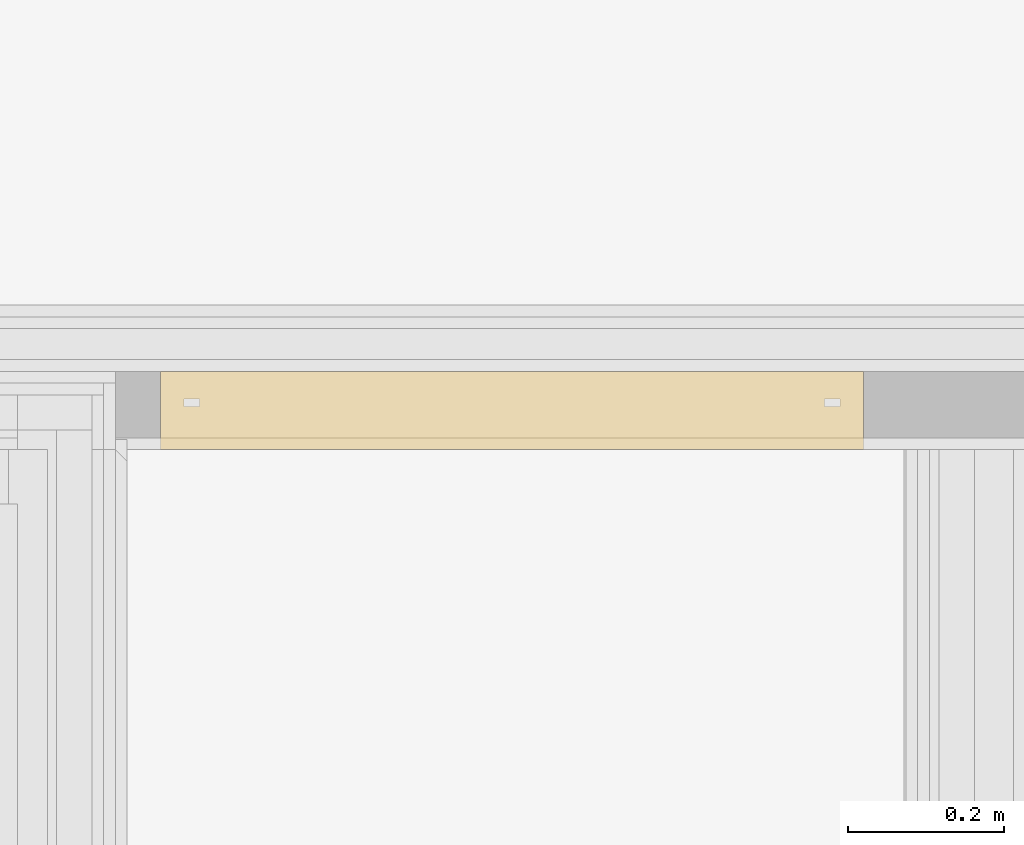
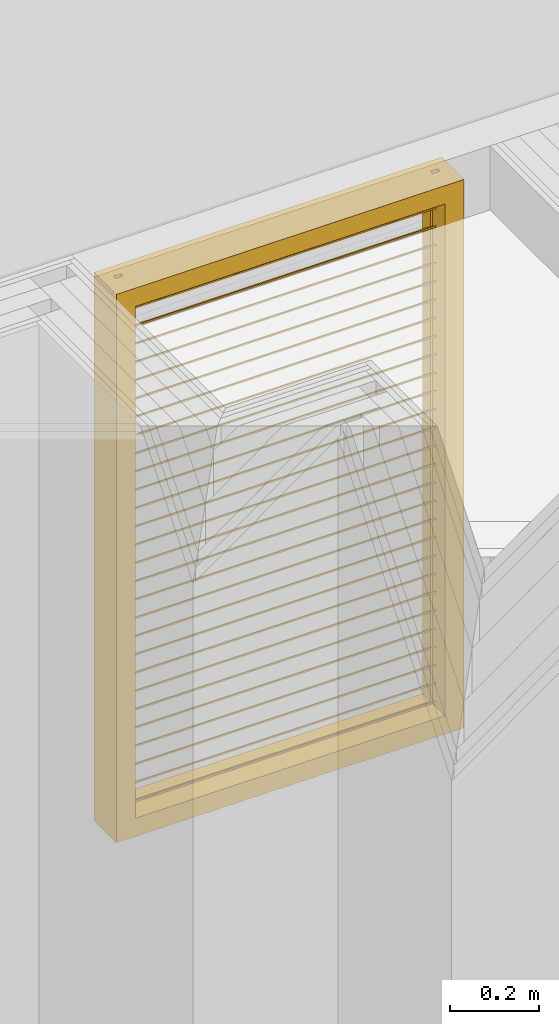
# One storey, part 105 of 169: 1 curtain wall.
"""IFC2X3 building model written with IfcOpenShell, lengths in metres."""

from ifc_helpers import new_model, entity, si_unit, converted_unit, derived_unit, money_unit, direction, frame, origin_with_axes, place, context, subcontext, project, spatial, open_shell, surface_model, material, type_object, element, save


model = new_model("IFC2X3")

# Units and contexts
model_context = context("Model", 3, precision=1e-05, world=origin_with_axes(), true_north=direction((0.0, 1.0)))
body_context = subcontext(model_context, "Body", "Model", "MODEL_VIEW", scale=1.0)
ifc_project = project(units=[si_unit("LENGTHUNIT", "METRE"), si_unit("AREAUNIT", "SQUARE_METRE"), si_unit("VOLUMEUNIT", "CUBIC_METRE"), si_unit("ABSORBEDDOSEUNIT", "GRAY"), si_unit("AMOUNTOFSUBSTANCEUNIT", "MOLE"), si_unit("DOSEEQUIVALENTUNIT", "SIEVERT"), si_unit("ELECTRICCAPACITANCEUNIT", "FARAD"), si_unit("ELECTRICCHARGEUNIT", "COULOMB"), si_unit("ELECTRICCONDUCTANCEUNIT", "SIEMENS"), si_unit("ELECTRICCURRENTUNIT", "AMPERE"), si_unit("ELECTRICRESISTANCEUNIT", "OHM"), si_unit("ELECTRICVOLTAGEUNIT", "VOLT"), si_unit("ENERGYUNIT", "JOULE"), si_unit("FORCEUNIT", "NEWTON"), si_unit("FREQUENCYUNIT", "HERTZ"), si_unit("ILLUMINANCEUNIT", "LUX"), si_unit("INDUCTANCEUNIT", "HENRY"), si_unit("LUMINOUSFLUXUNIT", "LUMEN"), si_unit("LUMINOUSINTENSITYUNIT", "CANDELA"), si_unit("MAGNETICFLUXDENSITYUNIT", "TESLA"), si_unit("MAGNETICFLUXUNIT", "WEBER"), si_unit("MASSUNIT", "GRAM"), converted_unit("PLANEANGLEUNIT", "degree", entity("IfcReal", 0.0174532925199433), si_unit("PLANEANGLEUNIT", "RADIAN"), dimensions=[0, 0, 0, 0, 0, 0, 0]), si_unit("POWERUNIT", "WATT"), si_unit("PRESSUREUNIT", "PASCAL"), si_unit("RADIOACTIVITYUNIT", "BECQUEREL"), si_unit("SOLIDANGLEUNIT", "STERADIAN"), si_unit("THERMODYNAMICTEMPERATUREUNIT", "KELVIN"), si_unit("TIMEUNIT", "SECOND"), derived_unit("ACCELERATIONUNIT", [(si_unit("LENGTHUNIT", "METRE"), 1), (si_unit("TIMEUNIT", "SECOND"), -2)]), derived_unit("ANGULARVELOCITYUNIT", [(converted_unit("PLANEANGLEUNIT", "degree", entity("IfcReal", 0.0174532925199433), si_unit("PLANEANGLEUNIT", "RADIAN"), dimensions=[0, 0, 0, 0, 0, 0, 0]), 1), (si_unit("TIMEUNIT", "SECOND"), -1)]), derived_unit("CURVATUREUNIT", [(converted_unit("PLANEANGLEUNIT", "degree", entity("IfcReal", 0.0174532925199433), si_unit("PLANEANGLEUNIT", "RADIAN"), dimensions=[0, 0, 0, 0, 0, 0, 0]), 1), (si_unit("LENGTHUNIT", "METRE"), -1)]), derived_unit("DYNAMICVISCOSITYUNIT", [(si_unit("PRESSUREUNIT", "PASCAL"), 1), (si_unit("TIMEUNIT", "SECOND"), 1)]), derived_unit("HEATFLUXDENSITYUNIT", [(si_unit("POWERUNIT", "WATT"), 1), (si_unit("LENGTHUNIT", "METRE"), -2)]), derived_unit("HEATINGVALUEUNIT", [(si_unit("ENERGYUNIT", "JOULE"), 1), (si_unit("MASSUNIT", "GRAM"), -1)]), derived_unit("INTEGERCOUNTRATEUNIT", [(si_unit("TIMEUNIT", "SECOND"), -1)]), derived_unit("IONCONCENTRATIONUNIT", [(si_unit("MASSUNIT", "GRAM"), 1), (si_unit("VOLUMEUNIT", "CUBIC_METRE"), -1)]), derived_unit("ISOTHERMALMOISTURECAPACITYUNIT", [(si_unit("VOLUMEUNIT", "CUBIC_METRE"), 1), (si_unit("MASSUNIT", "GRAM"), -1)]), derived_unit("KINEMATICVISCOSITYUNIT", [(si_unit("AREAUNIT", "SQUARE_METRE"), 1), (si_unit("TIMEUNIT", "SECOND"), -1)]), derived_unit("LINEARFORCEUNIT", [(si_unit("FORCEUNIT", "NEWTON"), 1), (si_unit("LENGTHUNIT", "METRE"), -1)]), derived_unit("LINEARMOMENTUNIT", [(si_unit("FORCEUNIT", "NEWTON"), 1), (si_unit("LENGTHUNIT", "METRE"), -1)]), derived_unit("LINEARSTIFFNESSUNIT", [(si_unit("FORCEUNIT", "NEWTON"), 1), (si_unit("LENGTHUNIT", "METRE"), -1)]), derived_unit("LINEARVELOCITYUNIT", [(si_unit("LENGTHUNIT", "METRE"), 1), (si_unit("TIMEUNIT", "SECOND"), -1)]), derived_unit("LUMINOUSINTENSITYDISTRIBUTIONUNIT", [(si_unit("LUMINOUSINTENSITYUNIT", "CANDELA"), 1), (si_unit("LUMINOUSFLUXUNIT", "LUMEN"), -1)]), derived_unit("MASSDENSITYUNIT", [(si_unit("MASSUNIT", "GRAM"), 1), (si_unit("VOLUMEUNIT", "CUBIC_METRE"), -1)]), derived_unit("MASSFLOWRATEUNIT", [(si_unit("MASSUNIT", "GRAM"), 1), (si_unit("TIMEUNIT", "SECOND"), -1)]), derived_unit("MASSPERLENGTHUNIT", [(si_unit("MASSUNIT", "GRAM"), 1), (si_unit("LENGTHUNIT", "METRE"), -1)]), derived_unit("MODULUSOFELASTICITYUNIT", [(si_unit("FORCEUNIT", "NEWTON"), 1), (si_unit("AREAUNIT", "SQUARE_METRE"), -1)]), derived_unit("MODULUSOFLINEARSUBGRADEREACTIONUNIT", [(si_unit("FORCEUNIT", "NEWTON"), 1), (si_unit("LENGTHUNIT", "METRE"), -2)]), derived_unit("MODULUSOFROTATIONALSUBGRADEREACTIONUNIT", [(si_unit("FORCEUNIT", "NEWTON"), 1), (si_unit("LENGTHUNIT", "METRE"), 1)]), derived_unit("MODULUSOFSUBGRADEREACTIONUNIT", [(si_unit("FORCEUNIT", "NEWTON"), 1), (si_unit("VOLUMEUNIT", "CUBIC_METRE"), -1)]), derived_unit("MOISTUREDIFFUSIVITYUNIT", [(si_unit("VOLUMEUNIT", "CUBIC_METRE"), 1), (si_unit("TIMEUNIT", "SECOND"), -1)]), derived_unit("MOLECULARWEIGHTUNIT", [(si_unit("MASSUNIT", "GRAM"), 1), (si_unit("AMOUNTOFSUBSTANCEUNIT", "MOLE"), -1)]), derived_unit("PLANARFORCEUNIT", [(si_unit("FORCEUNIT", "NEWTON"), 1), (si_unit("LENGTHUNIT", "METRE"), -2)]), derived_unit("ROTATIONALFREQUENCYUNIT", [(si_unit("TIMEUNIT", "SECOND"), -1)]), derived_unit("ROTATIONALMASSUNIT", [(si_unit("MASSUNIT", "GRAM"), 1), (si_unit("LENGTHUNIT", "METRE"), 2)]), derived_unit("ROTATIONALSTIFFNESSUNIT", [(si_unit("FORCEUNIT", "NEWTON"), 1), (si_unit("LENGTHUNIT", "METRE"), 1), (converted_unit("PLANEANGLEUNIT", "degree", entity("IfcReal", 0.0174532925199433), si_unit("PLANEANGLEUNIT", "RADIAN"), dimensions=[0, 0, 0, 0, 0, 0, 0]), -1)]), derived_unit("SECTIONAREAINTEGRALUNIT", [(si_unit("LENGTHUNIT", "METRE"), 5)]), derived_unit("SECTIONMODULUSUNIT", [(si_unit("LENGTHUNIT", "METRE"), 3)]), derived_unit("SHEARMODULUSUNIT", [(si_unit("FORCEUNIT", "NEWTON"), 1), (si_unit("AREAUNIT", "SQUARE_METRE"), -1)]), derived_unit("SOUNDPOWERUNIT", [(si_unit("ENERGYUNIT", "JOULE"), 1), (si_unit("TIMEUNIT", "SECOND"), -1)]), derived_unit("SPECIFICHEATCAPACITYUNIT", [(si_unit("FORCEUNIT", "NEWTON"), 1), (si_unit("MASSUNIT", "GRAM"), -1), (si_unit("THERMODYNAMICTEMPERATUREUNIT", "KELVIN"), -1)]), derived_unit("TEMPERATUREGRADIENTUNIT", [(si_unit("THERMODYNAMICTEMPERATUREUNIT", "KELVIN"), 1), (si_unit("LENGTHUNIT", "METRE"), -1)]), derived_unit("THERMALADMITTANCEUNIT", [(si_unit("POWERUNIT", "WATT"), 1), (si_unit("AREAUNIT", "SQUARE_METRE"), -1), (si_unit("THERMODYNAMICTEMPERATUREUNIT", "KELVIN"), -1)]), derived_unit("THERMALCONDUCTANCEUNIT", [(si_unit("POWERUNIT", "WATT"), 1), (si_unit("LENGTHUNIT", "METRE"), -1), (si_unit("THERMODYNAMICTEMPERATUREUNIT", "KELVIN"), -1)]), derived_unit("THERMALEXPANSIONCOEFFICIENTUNIT", [(si_unit("THERMODYNAMICTEMPERATUREUNIT", "KELVIN"), -1)]), derived_unit("THERMALRESISTANCEUNIT", [(si_unit("AREAUNIT", "SQUARE_METRE"), 1), (si_unit("POWERUNIT", "WATT"), -1)]), derived_unit("THERMALTRANSMITTANCEUNIT", [(si_unit("POWERUNIT", "WATT"), 1), (si_unit("AREAUNIT", "SQUARE_METRE"), -1), (si_unit("THERMODYNAMICTEMPERATUREUNIT", "KELVIN"), -1)]), derived_unit("TORQUEUNIT", [(si_unit("FORCEUNIT", "NEWTON"), 1), (si_unit("LENGTHUNIT", "METRE"), 1)]), derived_unit("VAPORPERMEABILITYUNIT", [(si_unit("MASSUNIT", "GRAM"), 1), (si_unit("TIMEUNIT", "SECOND"), -1)]), derived_unit("VOLUMETRICFLOWRATEUNIT", [(si_unit("VOLUMEUNIT", "CUBIC_METRE"), 1), (si_unit("TIMEUNIT", "SECOND"), -1)]), derived_unit("WARPINGCONSTANTUNIT", [(si_unit("LENGTHUNIT", "METRE"), 6)]), derived_unit("WARPINGMOMENTUNIT", [(si_unit("FORCEUNIT", "NEWTON"), 1), (si_unit("LENGTHUNIT", "METRE"), 2)]), money_unit("GBP")], contexts=[model_context])

# Site, building, storey
site_placement = place(None, origin_with_axes())
site = spatial("IfcSite", under=ifc_project, at=site_placement, Name="Site", CompositionType="ELEMENT")
building_placement = place(site_placement, origin_with_axes())
building = spatial("IfcBuilding", under=site, at=building_placement, Name="Building01", CompositionType="ELEMENT")
storey_placement = place(building_placement, frame((0.0, 0.0, 5.15), z_axis=(0.0, 0.0, 1.0), x_axis=(1.0, 0.0, 0.0)))
storey = spatial("IfcBuildingStorey", under=building, at=storey_placement, Name="1F", CompositionType="ELEMENT", Elevation=5.15)

# Curtain wall
ifc_material = material(Name="A-CurtainWall_Frame")
curtain_wall_type = type_object("IfcCurtainWallType", Name="Generic - Maximum Spacing", PredefinedType="NOTDEFINED")
curtain_wall_placement = place(storey_placement, frame((0.0, 0.0, -5.15), z_axis=(0.0, 0.0, 1.0), x_axis=(1.0, 0.0, 0.0)))
element("IfcCurtainWall", 1, at=curtain_wall_placement, inside=storey, type_object=curtain_wall_type, material=ifc_material, Name="Generic - Maximum Spacing", ObjectType="Generic - Maximum Spacing", context=body_context, shape_type="SurfaceModel", body=[
    surface_model("IfcShellBasedSurfaceModel", [(12.483, 5.05953, 15.913684), (12.483, 5.061392, 15.916216), (12.483, 5.02047, 15.946316), (12.483, 5.018608, 15.943784), (13.283, 5.05953, 15.913684), (13.283, 5.018608, 15.943784), (13.283, 5.02047, 15.946316), (13.283, 5.061392, 15.916216), (12.483, 5.061392, 15.966216), (12.483, 5.02047, 15.996316), (12.483, 5.018608, 15.993784), (12.483, 5.05953, 15.963684), (13.283, 5.05953, 15.963684), (13.283, 5.018608, 15.993784), (13.283, 5.02047, 15.996316), (13.283, 5.061392, 15.966216), (12.483, 5.061392, 16.016216), (12.483, 5.02047, 16.046316), (12.483, 5.018608, 16.043784), (12.483, 5.05953, 16.013684), (13.283, 5.05953, 16.013684), (13.283, 5.018608, 16.043784), (13.283, 5.02047, 16.046316), (13.283, 5.061392, 16.016216), (12.483, 5.061392, 16.066216), (12.483, 5.02047, 16.096316), (12.483, 5.018608, 16.093784), (12.483, 5.05953, 16.063684), (13.283, 5.05953, 16.063684), (13.283, 5.018608, 16.093784), (13.283, 5.02047, 16.096316), (13.283, 5.061392, 16.066216), (12.483, 5.061392, 16.116216), (12.483, 5.02047, 16.146316), (12.483, 5.018608, 16.143784), (12.483, 5.05953, 16.113684), (13.283, 5.05953, 16.113684), (13.283, 5.018608, 16.143784), (13.283, 5.02047, 16.146316), (13.283, 5.061392, 16.116216), (12.483, 5.061392, 16.166216), (12.483, 5.02047, 16.196316), (12.483, 5.018608, 16.193784), (12.483, 5.05953, 16.163684), (13.283, 5.05953, 16.163684), (13.283, 5.018608, 16.193784), (13.283, 5.02047, 16.196316), (13.283, 5.061392, 16.166216), (12.483, 5.061392, 16.216216), (12.483, 5.02047, 16.246316), (12.483, 5.018608, 16.243784), (12.483, 5.05953, 16.213684), (13.283, 5.05953, 16.213684), (13.283, 5.018608, 16.243784), (13.283, 5.02047, 16.246316), (13.283, 5.061392, 16.216216), (12.483, 5.061392, 16.266216), (12.483, 5.02047, 16.296316), (12.483, 5.018608, 16.293784), (12.483, 5.05953, 16.263684), (13.283, 5.05953, 16.263684), (13.283, 5.018608, 16.293784), (13.283, 5.02047, 16.296316), (13.283, 5.061392, 16.266216), (12.483, 5.061392, 16.316216), (12.483, 5.02047, 16.346316), (12.483, 5.018608, 16.343784), (12.483, 5.05953, 16.313684), (13.283, 5.05953, 16.313684), (13.283, 5.018608, 16.343784), (13.283, 5.02047, 16.346316), (13.283, 5.061392, 16.316216), (12.483, 5.061392, 16.366216), (12.483, 5.02047, 16.396316), (12.483, 5.018608, 16.393784), (12.483, 5.05953, 16.363684), (13.283, 5.05953, 16.363684), (13.283, 5.018608, 16.393784), (13.283, 5.02047, 16.396316), (13.283, 5.061392, 16.366216), (12.483, 5.061392, 16.416216), (12.483, 5.02047, 16.446316), (12.483, 5.018608, 16.443784), (12.483, 5.05953, 16.413684), (13.283, 5.05953, 16.413684), (13.283, 5.018608, 16.443784), (13.283, 5.02047, 16.446316), (13.283, 5.061392, 16.416216), (12.483, 5.061392, 16.466216), (12.483, 5.02047, 16.496316), (12.483, 5.018608, 16.493784), (12.483, 5.05953, 16.463684), (13.283, 5.05953, 16.463684), (13.283, 5.018608, 16.493784), (13.283, 5.02047, 16.496316), (13.283, 5.061392, 16.466216), (12.483, 5.061392, 16.516216), (12.483, 5.02047, 16.546316), (12.483, 5.018608, 16.543784), (12.483, 5.05953, 16.513684), (13.283, 5.05953, 16.513684), (13.283, 5.018608, 16.543784), (13.283, 5.02047, 16.546316), (13.283, 5.061392, 16.516216), (12.483, 5.061392, 16.566216), (12.483, 5.02047, 16.596316), (12.483, 5.018608, 16.593784), (12.483, 5.05953, 16.563684), (13.283, 5.05953, 16.563684), (13.283, 5.018608, 16.593784), (13.283, 5.02047, 16.596316), (13.283, 5.061392, 16.566216), (12.483, 5.061392, 16.616216), (12.483, 5.02047, 16.646316), (12.483, 5.018608, 16.643784), (12.483, 5.05953, 16.613684), (13.283, 5.05953, 16.613684), (13.283, 5.018608, 16.643784), (13.283, 5.02047, 16.646316), (13.283, 5.061392, 16.616216), (12.483, 5.061392, 16.666216), (12.483, 5.02047, 16.696316), (12.483, 5.018608, 16.693784), (12.483, 5.05953, 16.663684), (13.283, 5.05953, 16.663684), (13.283, 5.018608, 16.693784), (13.283, 5.02047, 16.696316), (13.283, 5.061392, 16.666216), (12.483, 5.061392, 16.716216), (12.483, 5.02047, 16.746316), (12.483, 5.018608, 16.743784), (12.483, 5.05953, 16.713684), (13.283, 5.05953, 16.713684), (13.283, 5.018608, 16.743784), (13.283, 5.02047, 16.746316), (13.283, 5.061392, 16.716216), (12.483, 5.061392, 16.766216), (12.483, 5.02047, 16.796316), (12.483, 5.018608, 16.793784), (12.483, 5.05953, 16.763684), (13.283, 5.05953, 16.763684), (13.283, 5.018608, 16.793784), (13.283, 5.02047, 16.796316), (13.283, 5.061392, 16.766216), (12.483, 5.061392, 16.816216), (12.483, 5.02047, 16.846316), (12.483, 5.018608, 16.843784), (12.483, 5.05953, 16.813684), (13.283, 5.05953, 16.813684), (13.283, 5.018608, 16.843784), (13.283, 5.02047, 16.846316), (13.283, 5.061392, 16.816216), (12.483, 5.061392, 16.866216), (12.483, 5.02047, 16.896316), (12.483, 5.018608, 16.893784), (12.483, 5.05953, 16.863684), (13.283, 5.05953, 16.863684), (13.283, 5.018608, 16.893784), (13.283, 5.02047, 16.896316), (13.283, 5.061392, 16.866216), (12.483, 5.061392, 16.916216), (12.483, 5.02047, 16.946316), (12.483, 5.018608, 16.943784), (12.483, 5.05953, 16.913684), (13.283, 5.05953, 16.913684), (13.283, 5.018608, 16.943784), (13.283, 5.02047, 16.946316), (13.283, 5.061392, 16.916216), (12.483, 5.061392, 16.966216), (12.483, 5.02047, 16.996316), (12.483, 5.018608, 16.993784), (12.483, 5.05953, 16.963684), (13.283, 5.05953, 16.963684), (13.283, 5.018608, 16.993784), (13.283, 5.02047, 16.996316), (13.283, 5.061392, 16.966216), (12.483, 5.061392, 17.016216), (12.483, 5.02047, 17.046316), (12.483, 5.018608, 17.043784), (12.483, 5.05953, 17.013684), (13.283, 5.05953, 17.013684), (13.283, 5.018608, 17.043784), (13.283, 5.02047, 17.046316), (13.283, 5.061392, 17.016216), (12.483, 5.061392, 17.066216), (12.483, 5.02047, 17.096316), (12.483, 5.018608, 17.093784), (12.483, 5.05953, 17.063684), (13.283, 5.05953, 17.063684), (13.283, 5.018608, 17.093784), (13.283, 5.02047, 17.096316), (13.283, 5.061392, 17.066216), (12.483, 5.061392, 17.116216), (12.483, 5.02047, 17.146316), (12.483, 5.018608, 17.143784), (12.483, 5.05953, 17.113684), (13.283, 5.05953, 17.113684), (13.283, 5.018608, 17.143784), (13.283, 5.02047, 17.146316), (13.283, 5.061392, 17.116216), (12.483, 5.061392, 17.166216), (12.483, 5.02047, 17.196316), (12.483, 5.018608, 17.193784), (12.483, 5.05953, 17.163684), (13.283, 5.05953, 17.163684), (13.283, 5.018608, 17.193784), (13.283, 5.02047, 17.196316), (13.283, 5.061392, 17.166216), (12.483, 5.061392, 17.216216), (12.483, 5.02047, 17.246316), (12.483, 5.018608, 17.243784), (12.483, 5.05953, 17.213684), (13.283, 5.05953, 17.213684), (13.283, 5.018608, 17.243784), (13.283, 5.02047, 17.246316), (13.283, 5.061392, 17.216216), (12.483, 5.061392, 17.266216), (12.483, 5.02047, 17.296316), (12.483, 5.018608, 17.293784), (12.483, 5.05953, 17.263684), (13.283, 5.05953, 17.263684), (13.283, 5.018608, 17.293784), (13.283, 5.02047, 17.296316), (13.283, 5.061392, 17.266216), (12.483, 5.061392, 17.316216), (12.483, 5.02047, 17.346316), (12.483, 5.018608, 17.343784), (12.483, 5.05953, 17.313684), (13.283, 5.05953, 17.313684), (13.283, 5.018608, 17.343784), (13.283, 5.02047, 17.346316), (13.283, 5.061392, 17.316216), (13.283, 5.08, 15.93), (13.283, 5.045, 15.93), (13.283, 5.045, 15.91), (13.283, 5.035, 15.91), (13.283, 5.035, 15.93), (13.283, 4.98, 15.93), (13.283, 4.98, 15.88), (13.283, 5.08, 15.88), (12.483, 5.08, 15.88), (12.483, 5.08, 15.93), (12.483, 5.045, 15.93), (12.483, 5.045, 15.91), (12.483, 5.035, 15.91), (12.483, 5.035, 15.93), (12.483, 4.98, 15.93), (12.483, 4.98, 15.88), (13.333, 5.08, 17.38), (13.283, 5.08, 17.38), (13.283, 5.045, 17.38), (13.303, 5.045, 17.38), (13.303, 5.035, 17.38), (13.283, 5.035, 17.38), (13.283, 4.98, 17.38), (13.333, 4.98, 17.38), (13.333, 4.98, 15.88), (13.333, 5.08, 15.88), (13.283, 5.045, 15.88), (13.303, 5.045, 15.88), (13.303, 5.035, 15.88), (13.283, 5.035, 15.88), (12.483, 5.045, 17.35), (12.483, 5.035, 17.35), (12.483, 5.035, 17.33), (12.483, 4.98, 17.33), (12.483, 4.98, 17.38), (12.483, 5.08, 17.38), (12.483, 5.08, 17.33), (12.483, 5.045, 17.33), (13.283, 5.045, 17.33), (13.283, 5.045, 17.35), (13.283, 5.035, 17.35), (13.283, 5.035, 17.33), (13.283, 4.98, 17.33), (13.283, 5.08, 17.33), (12.433, 5.08, 15.88), (12.483, 5.045, 15.88), (12.463, 5.045, 15.88), (12.463, 5.035, 15.88), (12.483, 5.035, 15.88), (12.433, 4.98, 15.88), (12.433, 4.98, 17.38), (12.433, 5.08, 17.38), (12.483, 5.045, 17.38), (12.463, 5.045, 17.38), (12.463, 5.035, 17.38), (12.483, 5.035, 17.38)], [open_shell([[[0, 1, 2, 3]], [[1, 2, 3, 0]], [[4, 5, 6, 7]], [[1, 0, 4, 7]], [[2, 1, 7, 6]], [[3, 2, 6, 5]], [[4, 0, 3, 5]], [[8, 9, 10, 11]], [[12, 13, 14, 15]], [[8, 11, 12, 15]], [[9, 8, 15, 14]], [[10, 9, 14, 13]], [[12, 11, 10, 13]], [[16, 17, 18, 19]], [[20, 21, 22, 23]], [[16, 19, 20, 23]], [[17, 16, 23, 22]], [[18, 17, 22, 21]], [[20, 19, 18, 21]], [[24, 25, 26, 27]], [[28, 29, 30, 31]], [[24, 27, 28, 31]], [[25, 24, 31, 30]], [[26, 25, 30, 29]], [[28, 27, 26, 29]], [[32, 33, 34, 35]], [[36, 37, 38, 39]], [[32, 35, 36, 39]], [[33, 32, 39, 38]], [[34, 33, 38, 37]], [[36, 35, 34, 37]], [[40, 41, 42, 43]], [[44, 45, 46, 47]], [[40, 43, 44, 47]], [[41, 40, 47, 46]], [[42, 41, 46, 45]], [[44, 43, 42, 45]], [[48, 49, 50, 51]], [[52, 53, 54, 55]], [[48, 51, 52, 55]], [[49, 48, 55, 54]], [[50, 49, 54, 53]], [[52, 51, 50, 53]], [[56, 57, 58, 59]], [[60, 61, 62, 63]], [[56, 59, 60, 63]], [[57, 56, 63, 62]], [[58, 57, 62, 61]], [[60, 59, 58, 61]], [[64, 65, 66, 67]], [[68, 69, 70, 71]], [[64, 67, 68, 71]], [[65, 64, 71, 70]], [[66, 65, 70, 69]], [[68, 67, 66, 69]], [[72, 73, 74, 75]], [[76, 77, 78, 79]], [[72, 75, 76, 79]], [[73, 72, 79, 78]], [[74, 73, 78, 77]], [[76, 75, 74, 77]], [[80, 81, 82, 83]], [[84, 85, 86, 87]], [[80, 83, 84, 87]], [[81, 80, 87, 86]], [[82, 81, 86, 85]], [[84, 83, 82, 85]], [[88, 89, 90, 91]], [[92, 93, 94, 95]], [[88, 91, 92, 95]], [[89, 88, 95, 94]], [[90, 89, 94, 93]], [[92, 91, 90, 93]], [[96, 97, 98, 99]], [[100, 101, 102, 103]], [[96, 99, 100, 103]], [[97, 96, 103, 102]], [[98, 97, 102, 101]], [[100, 99, 98, 101]], [[104, 105, 106, 107]], [[108, 109, 110, 111]], [[104, 107, 108, 111]], [[105, 104, 111, 110]], [[106, 105, 110, 109]], [[108, 107, 106, 109]], [[112, 113, 114, 115]], [[116, 117, 118, 119]], [[112, 115, 116, 119]], [[113, 112, 119, 118]], [[114, 113, 118, 117]], [[116, 115, 114, 117]], [[120, 121, 122, 123]], [[124, 125, 126, 127]], [[120, 123, 124, 127]], [[121, 120, 127, 126]], [[122, 121, 126, 125]], [[124, 123, 122, 125]], [[128, 129, 130, 131]], [[132, 133, 134, 135]], [[128, 131, 132, 135]], [[129, 128, 135, 134]], [[130, 129, 134, 133]], [[132, 131, 130, 133]], [[136, 137, 138, 139]], [[140, 141, 142, 143]], [[136, 139, 140, 143]], [[137, 136, 143, 142]], [[138, 137, 142, 141]], [[140, 139, 138, 141]], [[144, 145, 146, 147]], [[148, 149, 150, 151]], [[144, 147, 148, 151]], [[145, 144, 151, 150]], [[146, 145, 150, 149]], [[148, 147, 146, 149]], [[152, 153, 154, 155]], [[156, 157, 158, 159]], [[152, 155, 156, 159]], [[153, 152, 159, 158]], [[154, 153, 158, 157]], [[156, 155, 154, 157]], [[160, 161, 162, 163]], [[164, 165, 166, 167]], [[160, 163, 164, 167]], [[161, 160, 167, 166]], [[162, 161, 166, 165]], [[164, 163, 162, 165]], [[168, 169, 170, 171]], [[172, 173, 174, 175]], [[168, 171, 172, 175]], [[169, 168, 175, 174]], [[170, 169, 174, 173]], [[172, 171, 170, 173]], [[176, 177, 178, 179]], [[180, 181, 182, 183]], [[176, 179, 180, 183]], [[177, 176, 183, 182]], [[178, 177, 182, 181]], [[180, 179, 178, 181]], [[184, 185, 186, 187]], [[188, 189, 190, 191]], [[184, 187, 188, 191]], [[185, 184, 191, 190]], [[186, 185, 190, 189]], [[188, 187, 186, 189]], [[192, 193, 194, 195]], [[196, 197, 198, 199]], [[192, 195, 196, 199]], [[193, 192, 199, 198]], [[194, 193, 198, 197]], [[196, 195, 194, 197]], [[200, 201, 202, 203]], [[204, 205, 206, 207]], [[200, 203, 204, 207]], [[201, 200, 207, 206]], [[202, 201, 206, 205]], [[204, 203, 202, 205]], [[208, 209, 210, 211]], [[212, 213, 214, 215]], [[208, 211, 212, 215]], [[209, 208, 215, 214]], [[210, 209, 214, 213]], [[212, 211, 210, 213]], [[216, 217, 218, 219]], [[220, 221, 222, 223]], [[216, 219, 220, 223]], [[217, 216, 223, 222]], [[218, 217, 222, 221]], [[220, 219, 218, 221]], [[224, 225, 226, 227]], [[228, 229, 230, 231]], [[224, 227, 228, 231]], [[225, 224, 231, 230]], [[226, 225, 230, 229]], [[228, 227, 226, 229]], [[232, 233, 234, 235, 236, 237, 238, 239]], [[239, 240, 241, 232]], [[232, 241, 242, 233]], [[233, 242, 243, 234]], [[234, 243, 244, 235]], [[235, 244, 245, 236]], [[236, 245, 246, 237]], [[237, 246, 247, 238]], [[238, 247, 240, 239]], [[240, 247, 246, 245, 244, 243, 242, 241]], [[248, 249, 250, 251, 252, 253, 254, 255]], [[255, 256, 257, 248]], [[248, 257, 239, 249]], [[249, 239, 258, 250]], [[250, 258, 259, 251]], [[251, 259, 260, 252]], [[252, 260, 261, 253]], [[253, 261, 238, 254]], [[254, 238, 256, 255]], [[238, 261, 260, 259, 258, 239, 257, 256]], [[262, 263, 264, 265, 266, 267, 268, 269]], [[269, 270, 271, 262]], [[262, 271, 272, 263]], [[263, 272, 273, 264]], [[264, 273, 274, 265]], [[265, 274, 254, 266]], [[266, 254, 249, 267]], [[267, 249, 275, 268]], [[268, 275, 270, 269]], [[270, 275, 249, 254, 274, 273, 272, 271]], [[276, 240, 277, 278, 279, 280, 247, 281]], [[281, 282, 283, 276]], [[276, 283, 267, 240]], [[240, 267, 284, 277]], [[277, 284, 285, 278]], [[278, 285, 286, 279]], [[279, 286, 287, 280]], [[280, 287, 266, 247]], [[247, 266, 282, 281]], [[266, 287, 286, 285, 284, 267, 283, 282]]])]),
])

save(model, "model.ifc")
